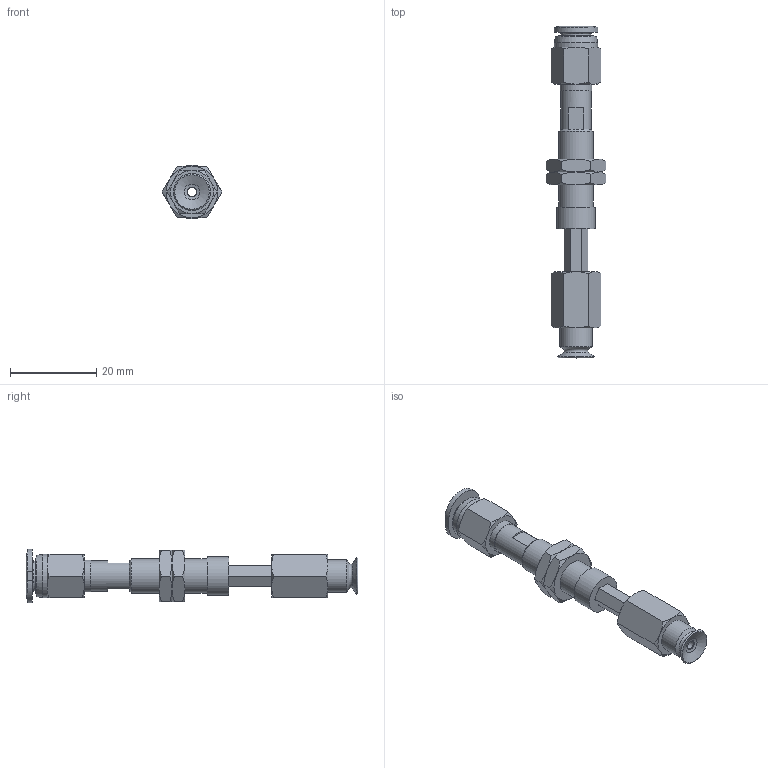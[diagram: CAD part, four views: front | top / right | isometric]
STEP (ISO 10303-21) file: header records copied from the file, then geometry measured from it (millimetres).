
FILE_DESCRIPTION(('STEP AP203'),'1');
FILE_NAME('-O.stp','2025-08-27T03:04:42',(' '),(' '),'Spatial InterOp 3D',' ',' ');
FILE_SCHEMA(('CONFIG_CONTROL_DESIGN'));
Length unit declared in the file: millimetre
Products named in the file (7): BNABPFTH-8A-10-※-O; ADAPTER; NAPATH-10A-10--M; Nut-8A-10-h; NAPFTH-8A-10-FBODY; BPFG-8A-※; PC-C_06-M5
Assembly tree (7 placements, depth 2):
  BNABPFTH-8A-10-※-O
    ADAPTER
    NAPATH-10A-10--M
    Nut-8A-10-h  x2
    NAPFTH-8A-10-FBODY
    BPFG-8A-※
    PC-C_06-M5
Bounding box: 13.86 x 76.98 x 12.4 mm (x, y, z)
Volume: 3387.5 mm3; surface area: 5115.3 mm2
Topology: 6 solids, 9 shells, 174 faces, 368 edges, 223 vertices
Faces by surface type: plane 69, cone 62, cylinder 23, torus 12, bspline 5, revolution 3
Full cylindrical faces by diameter (mm): 2 x3, 4 x4, 4.134 x1, 5 x1, 6 x2, 7 x2, 7.188 x2, 7.4 x1, 7.5 x1, 8 x1, 8.2 x1, 9 x1, 10 x1
Entity records: 4515 total; most frequent: CARTESIAN_POINT 1271, DIRECTION 597, ORIENTED_EDGE 522, EDGE_CURVE 263, AXIS2_PLACEMENT_3D 259, EDGE_LOOP 222, VERTEX_POINT 185, FACE_OUTER_BOUND 124
